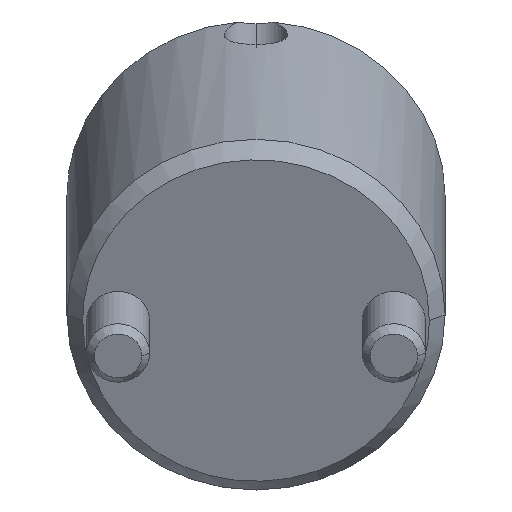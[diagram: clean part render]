
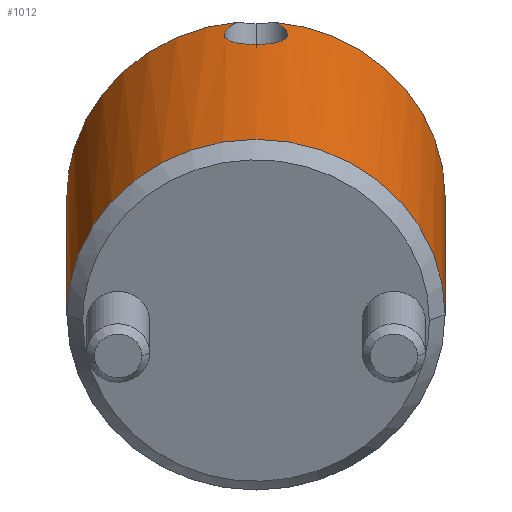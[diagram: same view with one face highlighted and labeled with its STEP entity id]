
A CAD part, front view. The second image highlights one B-rep face of the part: STEP entity #1012.
In plain terms, the highlighted cylindrical face has radius 12 mm (diameter 24 mm), a partial arc.
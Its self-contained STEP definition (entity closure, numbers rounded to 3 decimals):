
#778=CARTESIAN_POINT('Vertex',(0.,12.,1.)) ;
#781=CARTESIAN_POINT('Axis2P3D Location',(0.,0.,1.)) ;
#785=CARTESIAN_POINT('Vertex',(0.,-12.,1.)) ;
#925=CARTESIAN_POINT('Axis2P3D Location',(0.,0.,-1.1)) ;
#931=CARTESIAN_POINT('Control Point',(11.948,-1.115,21.)) ;
#932=CARTESIAN_POINT('Control Point',(11.619,-4.646,21.)) ;
#933=CARTESIAN_POINT('Control Point',(9.987,-8.058,21.)) ;
#934=CARTESIAN_POINT('Control Point',(7.096,-10.693,21.)) ;
#935=CARTESIAN_POINT('Control Point',(3.547,-12.,21.)) ;
#936=CARTESIAN_POINT('Control Point',(0.,-12.,21.)) ;
#937=CARTESIAN_POINT('Vertex',(11.948,-1.115,21.)) ;
#939=CARTESIAN_POINT('Vertex',(0.,-12.,21.)) ;
#942=CARTESIAN_POINT('Line Origine',(0.,-12.,-1.1)) ;
#947=CARTESIAN_POINT('Line Origine',(0.,12.,-1.1)) ;
#951=CARTESIAN_POINT('Vertex',(0.,12.,21.)) ;
#954=CARTESIAN_POINT('Axis2P3D Location',(0.,0.,21.)) ;
#958=CARTESIAN_POINT('Vertex',(11.948,1.115,21.)) ;
#962=CARTESIAN_POINT('Control Point',(11.948,1.115,21.)) ;
#963=CARTESIAN_POINT('Control Point',(11.932,1.288,20.868)) ;
#964=CARTESIAN_POINT('Control Point',(11.915,1.44,20.716)) ;
#965=CARTESIAN_POINT('Control Point',(11.897,1.574,20.545)) ;
#966=CARTESIAN_POINT('Control Point',(11.865,1.804,20.169)) ;
#967=CARTESIAN_POINT('Control Point',(11.842,1.941,19.754)) ;
#968=CARTESIAN_POINT('Control Point',(11.834,1.986,19.534)) ;
#969=CARTESIAN_POINT('Control Point',(11.828,2.025,19.096)) ;
#970=CARTESIAN_POINT('Control Point',(11.839,1.96,18.659)) ;
#971=CARTESIAN_POINT('Control Point',(11.849,1.903,18.45)) ;
#972=CARTESIAN_POINT('Control Point',(11.875,1.738,18.056)) ;
#973=CARTESIAN_POINT('Control Point',(11.909,1.482,17.719)) ;
#974=CARTESIAN_POINT('Control Point',(11.927,1.334,17.571)) ;
#975=CARTESIAN_POINT('Control Point',(11.961,1.004,17.316)) ;
#976=CARTESIAN_POINT('Control Point',(11.986,0.619,17.155)) ;
#977=CARTESIAN_POINT('Control Point',(11.995,0.415,17.1)) ;
#978=CARTESIAN_POINT('Control Point',(12.,0.209,17.073)) ;
#979=CARTESIAN_POINT('Control Point',(12.,0.,17.073)) ;
#980=CARTESIAN_POINT('Vertex',(12.,0.,17.073)) ;
#984=CARTESIAN_POINT('Control Point',(12.,0.,17.073)) ;
#985=CARTESIAN_POINT('Control Point',(12.,-0.345,17.073)) ;
#986=CARTESIAN_POINT('Control Point',(11.988,-0.681,17.147)) ;
#987=CARTESIAN_POINT('Control Point',(11.963,-1.008,17.297)) ;
#988=CARTESIAN_POINT('Control Point',(11.921,-1.397,17.597)) ;
#989=CARTESIAN_POINT('Control Point',(11.883,-1.677,17.994)) ;
#990=CARTESIAN_POINT('Control Point',(11.872,-1.748,18.115)) ;
#991=CARTESIAN_POINT('Control Point',(11.849,-1.902,18.439)) ;
#992=CARTESIAN_POINT('Control Point',(11.834,-1.987,18.793)) ;
#993=CARTESIAN_POINT('Control Point',(11.83,-2.011,19.011)) ;
#994=CARTESIAN_POINT('Control Point',(11.831,-2.008,19.378)) ;
#995=CARTESIAN_POINT('Control Point',(11.843,-1.935,19.741)) ;
#996=CARTESIAN_POINT('Control Point',(11.85,-1.894,19.885)) ;
#997=CARTESIAN_POINT('Control Point',(11.87,-1.768,20.225)) ;
#998=CARTESIAN_POINT('Control Point',(11.897,-1.578,20.539)) ;
#999=CARTESIAN_POINT('Control Point',(11.914,-1.444,20.712)) ;
#1000=CARTESIAN_POINT('Control Point',(11.932,-1.29,20.867)) ;
#1001=CARTESIAN_POINT('Control Point',(11.948,-1.115,21.)) ;
#782=DIRECTION('Axis2P3D Direction',(0.,0.,1.)) ;
#926=DIRECTION('Axis2P3D Direction',(0.,-0.,1.)) ;
#927=DIRECTION('Axis2P3D XDirection',(0.,-1.,0.)) ;
#943=DIRECTION('Vector Direction',(0.,0.,1.)) ;
#948=DIRECTION('Vector Direction',(0.,0.,1.)) ;
#955=DIRECTION('Axis2P3D Direction',(0.,-0.,1.)) ;
#783=AXIS2_PLACEMENT_3D('Circle Axis2P3D',#781,#782,$) ;
#928=AXIS2_PLACEMENT_3D('Cylinder Axis2P3D',#925,#926,#927) ;
#956=AXIS2_PLACEMENT_3D('Circle Axis2P3D',#954,#955,$) ;
#1004=ORIENTED_EDGE('',*,*,#941,.T.) ;
#1005=ORIENTED_EDGE('',*,*,#946,.T.) ;
#1006=ORIENTED_EDGE('',*,*,#787,.F.) ;
#1007=ORIENTED_EDGE('',*,*,#953,.F.) ;
#1008=ORIENTED_EDGE('',*,*,#960,.T.) ;
#1009=ORIENTED_EDGE('',*,*,#982,.T.) ;
#1010=ORIENTED_EDGE('',*,*,#1002,.T.) ;
#944=VECTOR('Line Direction',#943,1.) ;
#949=VECTOR('Line Direction',#948,1.) ;
#1012=ADVANCED_FACE('MANIFOLD_SOLID_BREP #1130',(#1011),#929,.T.) ;
#930=B_SPLINE_CURVE_WITH_KNOTS('',5,(#931,#932,#933,#934,#935,#936),.UNSPECIFIED.,.F.,.U.,(6,6),(-8.867,8.867),.UNSPECIFIED.) ;
#961=B_SPLINE_CURVE_WITH_KNOTS('',5,(#962,#963,#964,#965,#966,#967,#968,#969,#970,#971,#972,#973,#974,#975,#976,#977,#978,#979),.UNSPECIFIED.,.F.,.U.,(6,3,3,3,3,6),(0.,1.457,3.029,4.555,6.053,7.556),.UNSPECIFIED.) ;
#983=B_SPLINE_CURVE_WITH_KNOTS('',5,(#984,#985,#986,#987,#988,#989,#990,#991,#992,#993,#994,#995,#996,#997,#998,#999,#1000,#1001),.UNSPECIFIED.,.F.,.U.,(6,3,3,3,3,6),(0.,2.482,3.488,5.036,6.081,7.554),.UNSPECIFIED.) ;
#784=CIRCLE('generated circle',#783,12.) ;
#957=CIRCLE('generated circle',#956,12.) ;
#929=CYLINDRICAL_SURFACE('generated cylinder',#928,12.) ;
#787=EDGE_CURVE('',#779,#786,#784,.F.) ;
#941=EDGE_CURVE('',#938,#940,#930,.T.) ;
#946=EDGE_CURVE('',#940,#786,#945,.F.) ;
#953=EDGE_CURVE('',#952,#779,#950,.F.) ;
#960=EDGE_CURVE('',#952,#959,#957,.F.) ;
#982=EDGE_CURVE('',#959,#981,#961,.T.) ;
#1002=EDGE_CURVE('',#981,#938,#983,.T.) ;
#1003=EDGE_LOOP('',(#1004,#1005,#1006,#1007,#1008,#1009,#1010)) ;
#1011=FACE_OUTER_BOUND('',#1003,.T.) ;
#945=LINE('Line',#942,#944) ;
#950=LINE('Line',#947,#949) ;
#779=VERTEX_POINT('',#778) ;
#786=VERTEX_POINT('',#785) ;
#938=VERTEX_POINT('',#937) ;
#940=VERTEX_POINT('',#939) ;
#952=VERTEX_POINT('',#951) ;
#959=VERTEX_POINT('',#958) ;
#981=VERTEX_POINT('',#980) ;
